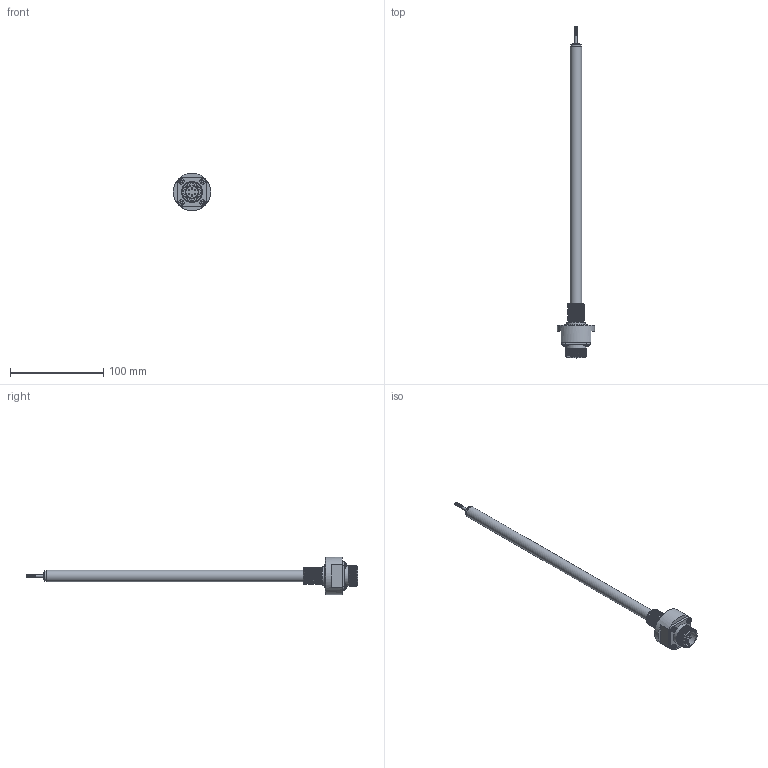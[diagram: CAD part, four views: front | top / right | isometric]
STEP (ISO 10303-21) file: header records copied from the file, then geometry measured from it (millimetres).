
FILE_DESCRIPTION( ( 'STEP AP214' ), '1' );
FILE_NAME( 'N:/Engineering/CAD_Solid/LVDT/HYD/Kunden-3D-Modell/SM180-HYD-18-S.stp', '2011-12-14T13:53:12', ( ' ' ), ( ' ' ), 'XStep 1.0', ' ', ' ' );
FILE_SCHEMA( ( 'CONFIG_CONTROL_DESIGN) ( )' ) );
Length unit declared in the file: metre
Products named in the file (17): 1; 2; 3; 4; 5; 6; 7; 8; 9; 10; 11; 12; 13; 14; 15; 16; 17
Bounding box: 40 x 355.9 x 40 mm (x, y, z)
Surface area: 22832 mm2
Topology: 1 solids, 109 shells, 117 faces, 538 edges, 495 vertices
Faces by surface type: plane 57, cylinder 36, bspline 13, cone 6, sphere 4, torus 1
Full cylindrical faces by diameter (mm): 1.6 x6, 2.4 x1, 3 x1, 6 x4, 8 x1, 11 x1, 12 x1, 15.8 x1, 17.6 x1, 20.2 x1, 22.3 x7, 24 x1, 40 x1
Entity records: 15776 total; most frequent: CARTESIAN_POINT 11304, DIRECTION 853, ORIENTED_EDGE 467, EDGE_CURVE 467, VERTEX_POINT 467, AXIS2_PLACEMENT_3D 331, CIRCLE 218, LINE 191
